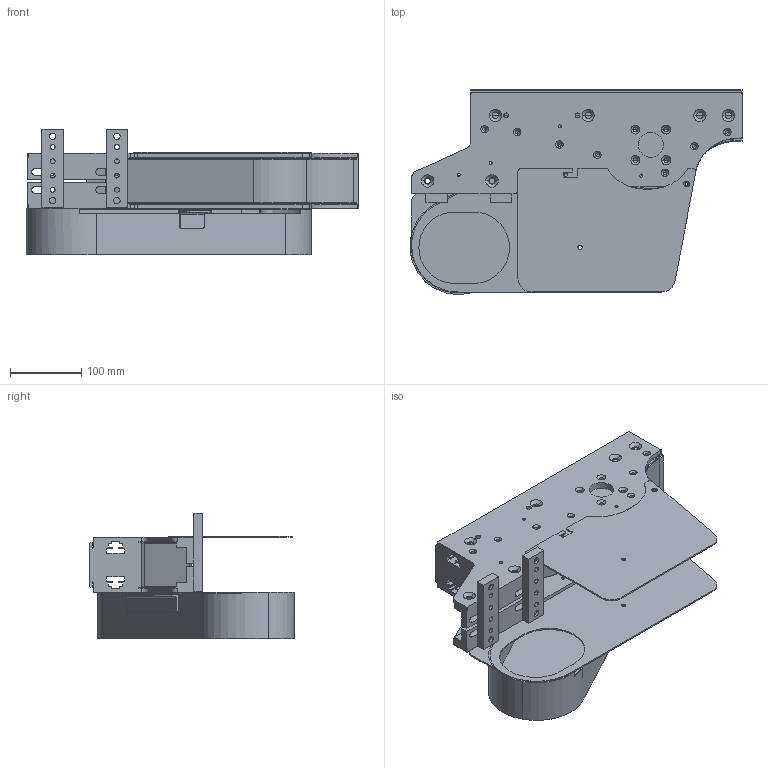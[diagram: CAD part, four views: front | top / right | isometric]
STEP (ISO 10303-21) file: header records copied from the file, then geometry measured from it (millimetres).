
FILE_DESCRIPTION (( 'STEP AP214' ), '1' );
FILE_NAME ('FSID SD 0L.step', '2017-04-07T11:09:38', ( '' ), ( '' ), 'SwSTEP 2.0', 'SolidWorks 2016', '' );
FILE_SCHEMA (( 'AUTOMOTIVE_DESIGN' ));
Length unit declared in the file: millimetre
Products named in the file (1): FSID SD 0L
Bounding box: 465.17 x 286.77 x 176 mm (x, y, z)
Volume: 3556859 mm3; surface area: 775494.1 mm2
Topology: 4 solids, 4 shells, 655 faces, 1740 edges, 1072 vertices
Faces by surface type: cylinder 291, plane 224, cone 128, torus 12
Entity records: 22187 total; most frequent: DIRECTION 3700, CARTESIAN_POINT 3479, ORIENTED_EDGE 3376, EDGE_CURVE 1688, AXIS2_PLACEMENT_3D 1359, VERTEX_POINT 1072, LINE 982, VECTOR 982
